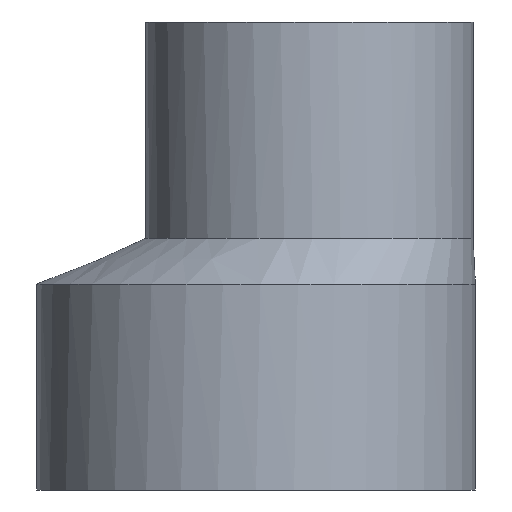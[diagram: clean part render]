
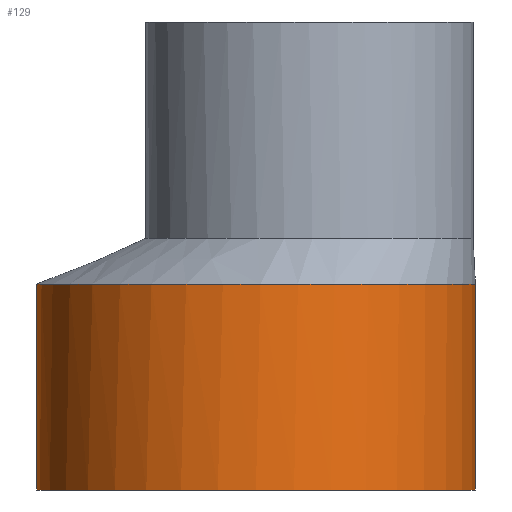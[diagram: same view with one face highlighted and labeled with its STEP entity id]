
A CAD part, front view. The second image highlights one B-rep face of the part: STEP entity #129.
In plain terms, the highlighted cylindrical face has radius 37.5 mm (diameter 75 mm), a full revolution.
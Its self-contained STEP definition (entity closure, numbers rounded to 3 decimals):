
#16=FACE_BOUND($,#39,.T.);
#24=CYLINDRICAL_SURFACE($,#148,37.5);
#30=FACE_OUTER_BOUND($,#38,.T.);
#38=EDGE_LOOP($,(#104,#105));
#39=EDGE_LOOP($,(#106));
#56=CIRCLE($,#146,37.5);
#57=CIRCLE($,#147,37.5);
#58=CIRCLE($,#149,37.5);
#68=VERTEX_POINT($,#249);
#69=VERTEX_POINT($,#252);
#70=VERTEX_POINT($,#256);
#82=EDGE_CURVE($,#69,#68,#56,.T.);
#83=EDGE_CURVE($,#68,#69,#57,.T.);
#84=EDGE_CURVE($,#70,#70,#58,.T.);
#104=ORIENTED_EDGE($,*,*,#82,.T.);
#105=ORIENTED_EDGE($,*,*,#83,.T.);
#106=ORIENTED_EDGE($,*,*,#84,.F.);
#129=ADVANCED_FACE($,(#30,#16),#24,.T.);
#146=AXIS2_PLACEMENT_3D($,#253,#176,#177);
#147=AXIS2_PLACEMENT_3D($,#254,#178,#179);
#148=AXIS2_PLACEMENT_3D($,#255,#180,#181);
#149=AXIS2_PLACEMENT_3D($,#257,#182,#183);
#176=DIRECTION('center_axis',(0.,0.,-1.));
#177=DIRECTION('ref_axis',(-1.,0.,0.));
#178=DIRECTION('center_axis',(0.,0.,-1.));
#179=DIRECTION('ref_axis',(-1.,0.,0.));
#180=DIRECTION('center_axis',(0.,0.,1.));
#181=DIRECTION('ref_axis',(-1.,0.,0.));
#182=DIRECTION('center_axis',(0.,0.,-1.));
#183=DIRECTION('ref_axis',(-1.,0.,0.));
#249=CARTESIAN_POINT('',(16.564,33.643,35.2));
#252=CARTESIAN_POINT('',(37.5,0.,35.2));
#253=CARTESIAN_POINT('Origin',(0.,0.,35.2));
#254=CARTESIAN_POINT('Origin',(0.,0.,35.2));
#255=CARTESIAN_POINT('Origin',(0.,0.,0.));
#256=CARTESIAN_POINT('',(37.5,0.,0.));
#257=CARTESIAN_POINT('Origin',(0.,0.,0.));
